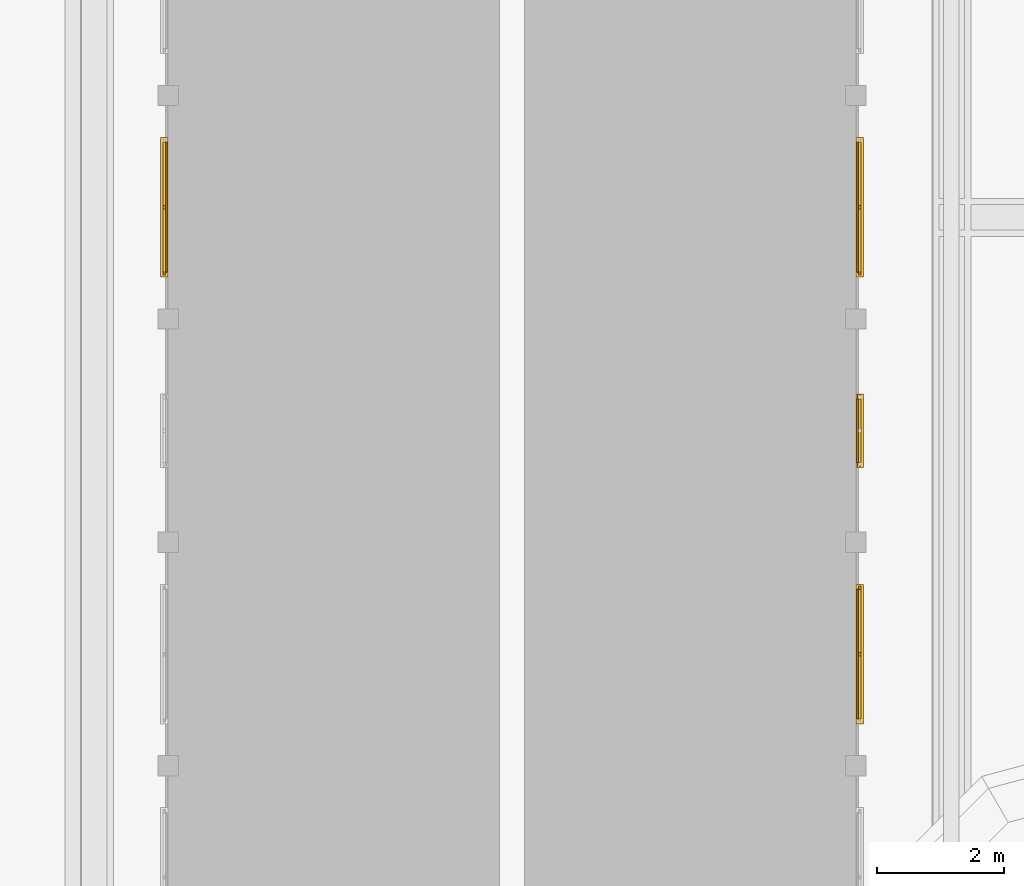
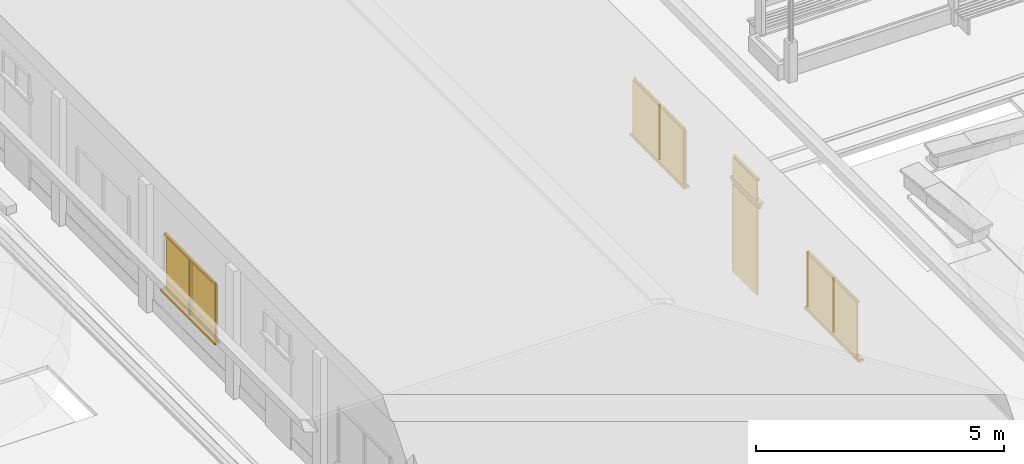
# One storey, part 50 of 177: 18 windows, 2 doors.
"""IFC4 building model written with IfcOpenShell, lengths in metres."""

import ifcopenshell
import ifcopenshell.guid

model = None  # the IFC model being written
_history = None  # IfcOwnerHistory: only IFC2X3 demands one
_inside = {}  # id of a spatial element -> (the spatial element, [elements in it])
_under = {}  # id of a project, library or spatial element -> (it, [spatial elements below it])
_declared = {}  # id of a project -> (the project, [libraries it declares])
_typed = {}  # id of a type object -> (the type object, [elements of that type])
_made_of = {}  # id of a material, layer set ... -> (it, [elements and type objects made of it])


def new_model(schema):
    """Start an empty IFC model of exactly this schema.

    Asked for "IFC4X3", IfcOpenShell would pick the latest addendum, in which some entities
    have other attributes; the version numbers below select the first issue.
    IFC2X3 requires an IfcOwnerHistory on every rooted entity: one is made here for all.
    """
    global model, _history
    if schema == "IFC4X3":
        model = ifcopenshell.file(schema_version=(4, 3, 0, 0))
    else:
        model = ifcopenshell.file(schema=schema)
    _inside.clear()
    _under.clear()
    _declared.clear()
    _typed.clear()
    _made_of.clear()
    _history = None
    if model.schema == "IFC2X3":
        org = make("IfcOrganization", Name="unknown")
        user = make(
            "IfcPersonAndOrganization",
            ThePerson=make("IfcPerson", FamilyName="unknown"),
            TheOrganization=org,
        )
        app = make(
            "IfcApplication",
            ApplicationDeveloper=org,
            Version="unknown",
            ApplicationFullName="unknown",
            ApplicationIdentifier="unknown",
        )
        _history = make(
            "IfcOwnerHistory",
            OwningUser=user,
            OwningApplication=app,
            ChangeAction="ADDED",
            CreationDate=0,
        )
    return model


def make(cls, **values):
    """One entity of the class cls with the attributes given. An attribute that is None is left unset."""
    return model.create_entity(
        cls, **{name: value for name, value in values.items() if value is not None}
    )


def rooted(cls, **values):
    """An entity with a GlobalId (a new one), such as an element, a storey or a relation."""
    return make(cls, GlobalId=ifcopenshell.guid.new(), OwnerHistory=_history, **values)


def si_unit(unit_type, name, prefix=None):
    """IfcSIUnit, for example si_unit("LENGTHUNIT", "METRE", prefix="MILLI")."""
    return make("IfcSIUnit", UnitType=unit_type, Prefix=prefix, Name=name)


def assignment(units):
    """IfcUnitAssignment: the units of a project."""
    return None if units is None else make("IfcUnitAssignment", Units=units)


def point(xyz):
    """IfcCartesianPoint."""
    return None if xyz is None else make("IfcCartesianPoint", Coordinates=xyz)


def direction(xyz):
    """IfcDirection."""
    return None if xyz is None else make("IfcDirection", DirectionRatios=xyz)


def frame(location, z_axis=None, x_axis=None):
    """IfcAxis2Placement3D, a coordinate frame: its origin and axes. An axis left out is left unset."""
    return make(
        "IfcAxis2Placement3D",
        Location=point(location),
        Axis=direction(z_axis),
        RefDirection=direction(x_axis),
    )


def origin():
    """The frame at (0, 0, 0) with its axes left unset."""
    return frame((0.0, 0.0, 0.0))


def origin_with_axes():
    """The frame at (0, 0, 0) with the z axis (0, 0, 1) and the x axis (1, 0, 0) written out."""
    return frame((0.0, 0.0, 0.0), z_axis=(0.0, 0.0, 1.0), x_axis=(1.0, 0.0, 0.0))


def place(relative_to, where):
    """IfcLocalPlacement: puts the frame where relative to a parent placement (None: the world)."""
    return make(
        "IfcLocalPlacement", PlacementRelTo=relative_to, RelativePlacement=where
    )


def context(
    kind, dimensions, precision=None, world=None, true_north=None, identifier=None
):
    """IfcGeometricRepresentationContext, for example the 3D "Model" context."""
    return make(
        "IfcGeometricRepresentationContext",
        ContextIdentifier=identifier,
        ContextType=kind,
        CoordinateSpaceDimension=dimensions,
        Precision=precision,
        WorldCoordinateSystem=world,
        TrueNorth=true_north,
    )


def subcontext(parent, identifier, kind, view, scale=None):
    """IfcGeometricRepresentationSubContext, for example "Body" below "Model"."""
    return make(
        "IfcGeometricRepresentationSubContext",
        ContextIdentifier=identifier,
        ContextType=kind,
        ParentContext=parent,
        TargetScale=scale,
        TargetView=view,
    )


def project(units=None, contexts=None):
    """IfcProject with its units and contexts."""
    return rooted(
        "IfcProject",
        Name="project",
        RepresentationContexts=contexts,
        UnitsInContext=assignment(units),
    )


def spatial(cls, under=None, at=None, **own):
    """A site, building, storey or space (cls), placed at a placement, below another one or the project."""
    s = rooted(cls, ObjectPlacement=at, **own)
    if under is not None:
        _under.setdefault(under.id(), (under, []))[1].append(s)
    return s


def point_list(points):
    """IfcCartesianPointList2D or 3D."""
    cls = (
        "IfcCartesianPointList2D" if len(points[0]) == 2 else "IfcCartesianPointList3D"
    )
    return make(cls, CoordList=points)


def triangles(points, corners, closed=None, point_numbers=None):
    """IfcTriangulatedFaceSet: each triangle names its three corners, points numbered from 1."""
    return make(
        "IfcTriangulatedFaceSet",
        Coordinates=point_list(points),
        Closed=closed,
        CoordIndex=corners,
        PnIndex=point_numbers,
    )


def shape(context_of_items, identifier, shape_type, items):
    """IfcShapeRepresentation: the items that make up one representation, for example the "Body"."""
    return make(
        "IfcShapeRepresentation",
        ContextOfItems=context_of_items,
        RepresentationIdentifier=identifier,
        RepresentationType=shape_type,
        Items=items,
    )


def made_of(thing, what):
    """Note that an element or type object is made of a material, layer set ...; save() writes the relation."""
    if what is not None:
        _made_of.setdefault(what.id(), (what, []))[1].append(thing)
    return thing


def element(
    cls,
    number,
    at=None,
    inside=None,
    cuts=None,
    type_object=None,
    material=None,
    context=None,
    identifier="Body",
    shape_type=None,
    held_by="IfcProductDefinitionShape",
    body=None,
    shapes=None,
    **own,
):
    """One element of the class cls, such as IfcWall. Its Tag is "e" and its number.

    at: its placement. inside: the storey or other place that contains it. cuts: it is an
    opening in that element (IfcRelVoidsElement). A single representation is given by context,
    identifier, shape_type and body (its items); several are given by shapes. held_by: the class
    of the entity that holds the representations. save() writes the other relations.
    """
    e = rooted(cls, Tag="e%d" % number, ObjectPlacement=at, **own)
    if body is not None:
        shapes = [shape(context, identifier, shape_type, body)]
    if shapes is not None:
        e.Representation = make(held_by, Representations=shapes)
    if inside is not None:
        _inside.setdefault(inside.id(), (inside, []))[1].append(e)
    if cuts is not None:
        rooted(
            "IfcRelVoidsElement", RelatingBuildingElement=cuts, RelatedOpeningElement=e
        )
    if type_object is not None:
        _typed.setdefault(type_object.id(), (type_object, []))[1].append(e)
    return made_of(e, material)


def aggregate(whole, parts):
    """IfcRelAggregates: a whole, such as a stair, and the parts it consists of."""
    return rooted("IfcRelAggregates", RelatingObject=whole, RelatedObjects=parts)


def save(model, path):
    """Write the relations noted so far, then the file.

    IfcRelAggregates (storeys below a building ...), IfcRelContainedInSpatialStructure (elements
    in a storey), IfcRelDefinesByType, IfcRelAssociatesMaterial and IfcRelDeclares: one each for
    every whole, place, type object, material and project.
    """
    for whole, parts in _under.values():
        aggregate(whole, parts)
    for where, things in _inside.values():
        rooted(
            "IfcRelContainedInSpatialStructure",
            RelatedElements=things,
            RelatingStructure=where,
        )
    for kind, things in _typed.values():
        rooted("IfcRelDefinesByType", RelatedObjects=things, RelatingType=kind)
    for what, things in _made_of.values():
        rooted("IfcRelAssociatesMaterial", RelatedObjects=things, RelatingMaterial=what)
    for by, libraries in _declared.values():
        rooted("IfcRelDeclares", RelatingContext=by, RelatedDefinitions=libraries)
    model.write(path)


model = new_model("IFC4")

# Units and contexts
model_context = context("Model", 3, precision=1e-05, world=origin_with_axes())
body_context = subcontext(model_context, "Body", "Model", "MODEL_VIEW")
ifc_project = project(units=[si_unit("LENGTHUNIT", "METRE"), si_unit("AREAUNIT", "SQUARE_METRE"), si_unit("VOLUMEUNIT", "CUBIC_METRE"), si_unit("PLANEANGLEUNIT", "RADIAN")], contexts=[model_context])

# Site, building, storey
site_placement = place(None, origin_with_axes())
site = spatial("IfcSite", under=ifc_project, at=site_placement, Name="Predio Los Mangos - Morales, San Martín", CompositionType="ELEMENT")
building_placement = place(site_placement, origin())
building = spatial("IfcBuilding", under=site, at=building_placement, Name="Hogar de Refugio Temporal", CompositionType="ELEMENT")
storey_placement = place(building_placement, origin())
storey = spatial("IfcBuildingStorey", under=building, at=storey_placement, Name="NIVEL 1 (NPT +0.00)", CompositionType="ELEMENT", Elevation=0.0)

# Windows
window_1_placement = place(storey_placement, origin())
element("IfcWindow", 1, at=window_1_placement, inside=storey, Name="E-04_v5_vid", ObjectType="Ventana", PredefinedType="WINDOW", context=body_context, shape_type="Tessellation", body=[
    triangles([(13.76, 70.3871, 1.05), (13.78, 70.3871, 1.05), (13.78, 72.4229, 1.05), (13.76, 72.4229, 1.05), (13.76, 70.3871, 2.4), (13.78, 70.3871, 2.4), (13.78, 72.4229, 2.4), (13.76, 72.4229, 2.4)], [[1, 4, 3], [1, 3, 2], [5, 6, 7], [5, 7, 8], [1, 2, 6], [1, 6, 5], [2, 3, 7], [2, 7, 6], [3, 4, 8], [3, 8, 7], [4, 1, 5], [4, 5, 8]]),
])
window_2_placement = place(storey_placement, origin())
element("IfcWindow", 2, at=window_2_placement, inside=storey, Name="E-04_v5_m", ObjectType="Ventana", PredefinedType="WINDOW", context=body_context, shape_type="Tessellation", body=[
    triangles([(13.72, 70.3371, 1.05), (13.76, 70.3371, 1.05), (13.76, 70.3871, 1.05), (13.72, 70.3871, 1.05), (13.72, 70.3371, 2.4), (13.76, 70.3371, 2.4), (13.76, 70.3871, 2.4), (13.72, 70.3871, 2.4)], [[1, 4, 3], [1, 3, 2], [5, 6, 7], [5, 7, 8], [1, 2, 6], [1, 6, 5], [2, 3, 7], [2, 7, 6], [3, 4, 8], [3, 8, 7], [4, 1, 5], [4, 5, 8]]),
])
window_3_placement = place(storey_placement, origin())
element("IfcWindow", 3, at=window_3_placement, inside=storey, Name="E-04_v5_m", ObjectType="Ventana", PredefinedType="WINDOW", context=body_context, shape_type="Tessellation", body=[
    triangles([(13.72, 70.3871, 2.4), (13.76, 70.3871, 2.4), (13.76, 72.4229, 2.4), (13.72, 72.4229, 2.4), (13.72, 70.3871, 2.45), (13.76, 70.3871, 2.45), (13.76, 72.4229, 2.45), (13.72, 72.4229, 2.45)], [[1, 4, 3], [1, 3, 2], [5, 6, 7], [5, 7, 8], [1, 2, 6], [1, 6, 5], [2, 3, 7], [2, 7, 6], [3, 4, 8], [3, 8, 7], [4, 1, 5], [4, 5, 8]]),
])
window_4_placement = place(storey_placement, origin())
element("IfcWindow", 4, at=window_4_placement, inside=storey, Name="E-04_v5_m", ObjectType="Ventana", PredefinedType="WINDOW", context=body_context, shape_type="Tessellation", body=[
    triangles([(13.72, 71.38, 1.05), (13.76, 71.38, 1.05), (13.76, 71.43, 1.05), (13.72, 71.43, 1.05), (13.72, 71.38, 2.4), (13.76, 71.38, 2.4), (13.76, 71.43, 2.4), (13.72, 71.43, 2.4)], [[1, 4, 3], [1, 3, 2], [5, 6, 7], [5, 7, 8], [1, 2, 6], [1, 6, 5], [2, 3, 7], [2, 7, 6], [3, 4, 8], [3, 8, 7], [4, 1, 5], [4, 5, 8]]),
])
window_5_placement = place(storey_placement, origin())
element("IfcWindow", 5, at=window_5_placement, inside=storey, Name="E-04_v5_alf", ObjectType="Ventana", PredefinedType="WINDOW", context=body_context, shape_type="Tessellation", body=[
    triangles([(13.8, 70.3071, 0.99), (13.68, 70.3071, 0.99), (13.68, 72.5029, 0.99), (13.8, 72.5029, 0.99), (13.8, 70.3071, 1.05), (13.68, 70.3071, 1.05), (13.68, 72.5029, 1.05), (13.8, 72.5029, 1.05)], [[1, 4, 3], [1, 3, 2], [5, 6, 7], [5, 7, 8], [1, 2, 6], [1, 6, 5], [2, 3, 7], [2, 7, 6], [3, 4, 8], [3, 8, 7], [4, 1, 5], [4, 5, 8]]),
])
window_6_placement = place(storey_placement, origin())
element("IfcWindow", 6, at=window_6_placement, inside=storey, Name="E-04_v3_vid", ObjectType="Ventana", PredefinedType="WINDOW", context=body_context, shape_type="Tessellation", body=[
    triangles([(24.62, 63.3671, 1.05), (24.64, 63.3671, 1.05), (24.64, 65.4029, 1.05), (24.62, 65.4029, 1.05), (24.62, 63.3671, 2.4), (24.64, 63.3671, 2.4), (24.64, 65.4029, 2.4), (24.62, 65.4029, 2.4)], [[1, 4, 3], [1, 3, 2], [5, 6, 7], [5, 7, 8], [1, 2, 6], [1, 6, 5], [2, 3, 7], [2, 7, 6], [3, 4, 8], [3, 8, 7], [4, 1, 5], [4, 5, 8]]),
])
window_7_placement = place(storey_placement, origin())
element("IfcWindow", 7, at=window_7_placement, inside=storey, Name="E-04_v3_m", ObjectType="Ventana", PredefinedType="WINDOW", context=body_context, shape_type="Tessellation", body=[
    triangles([(24.64, 65.4029, 1.05), (24.68, 65.4029, 1.05), (24.68, 65.4529, 1.05), (24.64, 65.4529, 1.05), (24.64, 65.4029, 2.4), (24.68, 65.4029, 2.4), (24.68, 65.4529, 2.4), (24.64, 65.4529, 2.4)], [[1, 4, 3], [1, 3, 2], [5, 6, 7], [5, 7, 8], [1, 2, 6], [1, 6, 5], [2, 3, 7], [2, 7, 6], [3, 4, 8], [3, 8, 7], [4, 1, 5], [4, 5, 8]]),
])
window_8_placement = place(storey_placement, origin())
element("IfcWindow", 8, at=window_8_placement, inside=storey, Name="E-04_v3_m", ObjectType="Ventana", PredefinedType="WINDOW", context=body_context, shape_type="Tessellation", body=[
    triangles([(24.64, 63.3671, 2.4), (24.68, 63.3671, 2.4), (24.68, 65.4029, 2.4), (24.64, 65.4029, 2.4), (24.64, 63.3671, 2.45), (24.68, 63.3671, 2.45), (24.68, 65.4029, 2.45), (24.64, 65.4029, 2.45)], [[1, 4, 3], [1, 3, 2], [5, 6, 7], [5, 7, 8], [1, 2, 6], [1, 6, 5], [2, 3, 7], [2, 7, 6], [3, 4, 8], [3, 8, 7], [4, 1, 5], [4, 5, 8]]),
])
window_9_placement = place(storey_placement, origin())
element("IfcWindow", 9, at=window_9_placement, inside=storey, Name="E-04_v3_m", ObjectType="Ventana", PredefinedType="WINDOW", context=body_context, shape_type="Tessellation", body=[
    triangles([(24.64, 64.36, 1.05), (24.68, 64.36, 1.05), (24.68, 64.41, 1.05), (24.64, 64.41, 1.05), (24.64, 64.36, 2.4), (24.68, 64.36, 2.4), (24.68, 64.41, 2.4), (24.64, 64.41, 2.4)], [[1, 4, 3], [1, 3, 2], [5, 6, 7], [5, 7, 8], [1, 2, 6], [1, 6, 5], [2, 3, 7], [2, 7, 6], [3, 4, 8], [3, 8, 7], [4, 1, 5], [4, 5, 8]]),
])
window_10_placement = place(storey_placement, origin())
element("IfcWindow", 10, at=window_10_placement, inside=storey, Name="E-04_v3_alf", ObjectType="Ventana", PredefinedType="WINDOW", context=body_context, shape_type="Tessellation", body=[
    triangles([(24.6, 63.2871, 0.99), (24.72, 63.2871, 0.99), (24.72, 65.4829, 0.99), (24.6, 65.4829, 0.99), (24.6, 63.2871, 1.05), (24.72, 63.2871, 1.05), (24.72, 65.4829, 1.05), (24.6, 65.4829, 1.05)], [[1, 4, 3], [1, 3, 2], [5, 6, 7], [5, 7, 8], [1, 2, 6], [1, 6, 5], [2, 3, 7], [2, 7, 6], [3, 4, 8], [3, 8, 7], [4, 1, 5], [4, 5, 8]]),
])

# Doors
door_1_placement = place(storey_placement, origin())
element("IfcDoor", 11, at=door_1_placement, inside=storey, Name="E-04_p4", ObjectType="Puerta", PredefinedType="DOOR", context=body_context, shape_type="Tessellation", body=[
    triangles([(24.61, 67.395, 0.15), (24.65, 67.395, 0.15), (24.65, 68.395, 0.15), (24.61, 68.395, 0.15), (24.61, 67.395, 2.3), (24.65, 67.395, 2.3), (24.65, 68.395, 2.3), (24.61, 68.395, 2.3)], [[1, 4, 3], [1, 3, 2], [5, 6, 7], [5, 7, 8], [1, 2, 6], [1, 6, 5], [2, 3, 7], [2, 7, 6], [3, 4, 8], [3, 8, 7], [4, 1, 5], [4, 5, 8]]),
])
door_2_placement = place(storey_placement, origin())
element("IfcDoor", 12, at=door_2_placement, inside=storey, Name="E-04_p4_marco", ObjectType="Puerta", PredefinedType="DOOR", context=body_context, shape_type="Tessellation", body=[
    triangles([(24.63, 67.315, 2.3), (24.67, 67.315, 2.3), (24.67, 68.475, 2.3), (24.63, 68.475, 2.3), (24.63, 67.315, 2.38), (24.67, 67.315, 2.38), (24.67, 68.475, 2.38), (24.63, 68.475, 2.38)], [[1, 4, 3], [1, 3, 2], [5, 6, 7], [5, 7, 8], [1, 2, 6], [1, 6, 5], [2, 3, 7], [2, 7, 6], [3, 4, 8], [3, 8, 7], [4, 1, 5], [4, 5, 8]]),
])

# Windows
window_11_placement = place(storey_placement, origin())
element("IfcWindow", 13, at=window_11_placement, inside=storey, Name="E-04_vt4_vid", ObjectType="Ventana", PredefinedType="WINDOW", context=body_context, shape_type="Tessellation", body=[
    triangles([(24.62, 67.395, 2.45), (24.64, 67.395, 2.45), (24.64, 68.395, 2.45), (24.62, 68.395, 2.45), (24.62, 67.395, 2.95), (24.64, 67.395, 2.95), (24.64, 68.395, 2.95), (24.62, 68.395, 2.95)], [[1, 4, 3], [1, 3, 2], [5, 6, 7], [5, 7, 8], [1, 2, 6], [1, 6, 5], [2, 3, 7], [2, 7, 6], [3, 4, 8], [3, 8, 7], [4, 1, 5], [4, 5, 8]]),
])
window_12_placement = place(storey_placement, origin())
element("IfcWindow", 14, at=window_12_placement, inside=storey, Name="E-04_vt4_m", ObjectType="Ventana", PredefinedType="WINDOW", context=body_context, shape_type="Tessellation", body=[
    triangles([(24.64, 67.395, 2.95), (24.68, 67.395, 2.95), (24.68, 68.395, 2.95), (24.64, 68.395, 2.95), (24.64, 67.395, 3.0), (24.68, 67.395, 3.0), (24.68, 68.395, 3.0), (24.64, 68.395, 3.0)], [[1, 4, 3], [1, 3, 2], [5, 6, 7], [5, 7, 8], [1, 2, 6], [1, 6, 5], [2, 3, 7], [2, 7, 6], [3, 4, 8], [3, 8, 7], [4, 1, 5], [4, 5, 8]]),
])
window_13_placement = place(storey_placement, origin())
element("IfcWindow", 15, at=window_13_placement, inside=storey, Name="E-04_vt4_alf", ObjectType="Ventana", PredefinedType="WINDOW", context=body_context, shape_type="Tessellation", body=[
    triangles([(24.6, 67.315, 2.39), (24.72, 67.315, 2.39), (24.72, 68.475, 2.39), (24.6, 68.475, 2.39), (24.6, 67.315, 2.45), (24.72, 67.315, 2.45), (24.72, 68.475, 2.45), (24.6, 68.475, 2.45)], [[1, 4, 3], [1, 3, 2], [5, 6, 7], [5, 7, 8], [1, 2, 6], [1, 6, 5], [2, 3, 7], [2, 7, 6], [3, 4, 8], [3, 8, 7], [4, 1, 5], [4, 5, 8]]),
])
window_14_placement = place(storey_placement, origin())
element("IfcWindow", 16, at=window_14_placement, inside=storey, Name="E-04_v5_vid", ObjectType="Ventana", PredefinedType="WINDOW", context=body_context, shape_type="Tessellation", body=[
    triangles([(24.62, 70.3871, 1.05), (24.64, 70.3871, 1.05), (24.64, 72.4229, 1.05), (24.62, 72.4229, 1.05), (24.62, 70.3871, 2.4), (24.64, 70.3871, 2.4), (24.64, 72.4229, 2.4), (24.62, 72.4229, 2.4)], [[1, 4, 3], [1, 3, 2], [5, 6, 7], [5, 7, 8], [1, 2, 6], [1, 6, 5], [2, 3, 7], [2, 7, 6], [3, 4, 8], [3, 8, 7], [4, 1, 5], [4, 5, 8]]),
])
window_15_placement = place(storey_placement, origin())
element("IfcWindow", 17, at=window_15_placement, inside=storey, Name="E-04_v5_m", ObjectType="Ventana", PredefinedType="WINDOW", context=body_context, shape_type="Tessellation", body=[
    triangles([(24.64, 70.3371, 1.05), (24.68, 70.3371, 1.05), (24.68, 70.3871, 1.05), (24.64, 70.3871, 1.05), (24.64, 70.3371, 2.4), (24.68, 70.3371, 2.4), (24.68, 70.3871, 2.4), (24.64, 70.3871, 2.4)], [[1, 4, 3], [1, 3, 2], [5, 6, 7], [5, 7, 8], [1, 2, 6], [1, 6, 5], [2, 3, 7], [2, 7, 6], [3, 4, 8], [3, 8, 7], [4, 1, 5], [4, 5, 8]]),
])
window_16_placement = place(storey_placement, origin())
element("IfcWindow", 18, at=window_16_placement, inside=storey, Name="E-04_v5_m", ObjectType="Ventana", PredefinedType="WINDOW", context=body_context, shape_type="Tessellation", body=[
    triangles([(24.64, 70.3871, 2.4), (24.68, 70.3871, 2.4), (24.68, 72.4229, 2.4), (24.64, 72.4229, 2.4), (24.64, 70.3871, 2.45), (24.68, 70.3871, 2.45), (24.68, 72.4229, 2.45), (24.64, 72.4229, 2.45)], [[1, 4, 3], [1, 3, 2], [5, 6, 7], [5, 7, 8], [1, 2, 6], [1, 6, 5], [2, 3, 7], [2, 7, 6], [3, 4, 8], [3, 8, 7], [4, 1, 5], [4, 5, 8]]),
])
window_17_placement = place(storey_placement, origin())
element("IfcWindow", 19, at=window_17_placement, inside=storey, Name="E-04_v5_m", ObjectType="Ventana", PredefinedType="WINDOW", context=body_context, shape_type="Tessellation", body=[
    triangles([(24.64, 71.38, 1.05), (24.68, 71.38, 1.05), (24.68, 71.43, 1.05), (24.64, 71.43, 1.05), (24.64, 71.38, 2.4), (24.68, 71.38, 2.4), (24.68, 71.43, 2.4), (24.64, 71.43, 2.4)], [[1, 4, 3], [1, 3, 2], [5, 6, 7], [5, 7, 8], [1, 2, 6], [1, 6, 5], [2, 3, 7], [2, 7, 6], [3, 4, 8], [3, 8, 7], [4, 1, 5], [4, 5, 8]]),
])
window_18_placement = place(storey_placement, origin())
element("IfcWindow", 20, at=window_18_placement, inside=storey, Name="E-04_v5_alf", ObjectType="Ventana", PredefinedType="WINDOW", context=body_context, shape_type="Tessellation", body=[
    triangles([(24.6, 70.3071, 0.99), (24.72, 70.3071, 0.99), (24.72, 72.5029, 0.99), (24.6, 72.5029, 0.99), (24.6, 70.3071, 1.05), (24.72, 70.3071, 1.05), (24.72, 72.5029, 1.05), (24.6, 72.5029, 1.05)], [[1, 4, 3], [1, 3, 2], [5, 6, 7], [5, 7, 8], [1, 2, 6], [1, 6, 5], [2, 3, 7], [2, 7, 6], [3, 4, 8], [3, 8, 7], [4, 1, 5], [4, 5, 8]]),
])

save(model, "model.ifc")
